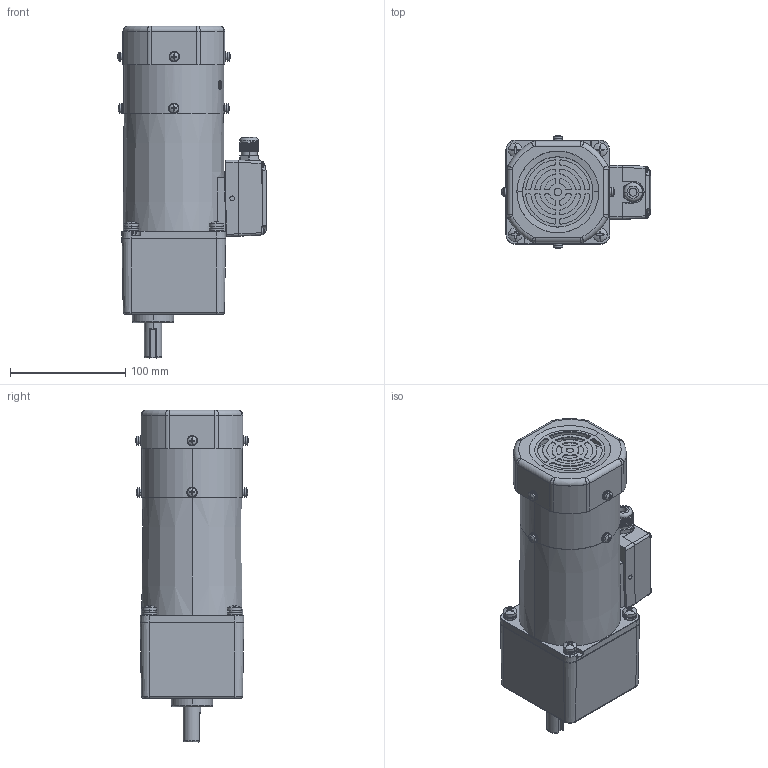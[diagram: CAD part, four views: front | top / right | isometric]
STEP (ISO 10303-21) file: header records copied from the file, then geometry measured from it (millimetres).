
FILE_DESCRIPTION (( 'STEP AP203' ), '1' );
FILE_NAME ('5RK120GU-CMFT(5GU3KB-200KB).STEP', '2023-08-09T02:54:25', ( 'Windows User' ), ( 'P R C' ), 'SwSTEP 2.0', 'SolidWorks 2019', '' );
FILE_SCHEMA (( 'CONFIG_CONTROL_DESIGN' ));
Length unit declared in the file: millimetre
Products named in the file (13): ^__5RK120GU-CMFT(5GU3KB-200KB)(2)_5RK120GU-CMFT(5GU3KB-200KB); 葩璃 (2) ^__5RK120GU-CMFT(5GU3KB-200KB)(2)_5RK120GU-CMFT(5GU3KB-200KB); ^5RK120GU-CMFT(5GU3KB-200KB)(2)_5RK120GU-CMFT(5GU3KB-200KB); 5RK120GU-CMFT(5GU3KB-200KB); ^_5RK120GU-CMFT(5GU3KB-200KB)(2)_5RK120GU-CMFT(5GU3KB-200KB); 葩璃 (3) ^__5RK120GU-CMFT(5GU3KB-200KB)(2)_5RK120GU-CMFT(5GU3KB-200KB); ^____5RK120GU-CMFT(5GU3KB-200KB)(2)_5RK120GU-CMFT(5GU3KB-200KB); 葩璃 (3) ^____5RK120GU-CMFT(5GU3KB-200KB)(2)_5RK120GU-CMFT(5GU3KB-200KB); 葩璃 (2) ^____5RK120GU-CMFT(5GU3KB-200KB)(2)_5RK120GU-CMFT(5GU3KB-200KB); 5RK120GU-CMFT(5GU3KB-200KB)(2)^5RK120GU-CMFT(5GU3KB-200KB); ^___5RK120GU-CMFT(5GU3KB-200KB)(2)_5RK120GU-CMFT(5GU3KB-200KB); 5GU3KB-200KB^5RK120GU-CMFT(5GU3KB-200KB)(2)_5RK120GU-CMFT(5GU3KB-200KB)
Assembly tree (15 placements, depth 7):
  5RK120GU-CMFT(5GU3KB-200KB)
    5RK120GU-CMFT(5GU3KB-200KB)(2)^5RK120GU-CMFT(5GU3KB-200KB)
      ^5RK120GU-CMFT(5GU3KB-200KB)(2)_5RK120GU-CMFT(5GU3KB-200KB)
        ^_5RK120GU-CMFT(5GU3KB-200KB)(2)_5RK120GU-CMFT(5GU3KB-200KB)
          ^__5RK120GU-CMFT(5GU3KB-200KB)(2)_5RK120GU-CMFT(5GU3KB-200KB)
            ^___5RK120GU-CMFT(5GU3KB-200KB)(2)_5RK120GU-CMFT(5GU3KB-200KB)
              ^____5RK120GU-CMFT(5GU3KB-200KB)(2)_5RK120GU-CMFT(5GU3KB-200KB)
              葩璃 (2) ^____5RK120GU-CMFT(5GU3KB-200KB)(2)_5RK120GU-CMFT(5GU3KB-200KB)
              葩璃 (3) ^____5RK120GU-CMFT(5GU3KB-200KB)(2)_5RK120GU-CMFT(5GU3KB-200KB)  x4
          ^__5RK120GU-CMFT(5GU3KB-200KB)(2)_5RK120GU-CMFT(5GU3KB-200KB)
          葩璃 (2) ^__5RK120GU-CMFT(5GU3KB-200KB)(2)_5RK120GU-CMFT(5GU3KB-200KB)
          葩璃 (3) ^__5RK120GU-CMFT(5GU3KB-200KB)(2)_5RK120GU-CMFT(5GU3KB-200KB)
      5GU3KB-200KB^5RK120GU-CMFT(5GU3KB-200KB)(2)_5RK120GU-CMFT(5GU3KB-200KB)
Bounding box: 129.3 x 98.11 x 288 mm (x, y, z)
Volume: 1371034 mm3; surface area: 202684.8 mm2
Topology: 49 solids, 49 shells, 1955 faces, 5063 edges, 3216 vertices
Faces by surface type: cylinder 783, plane 572, cone 379, torus 104, sphere 81, bspline 36
Entity records: 55947 total; most frequent: CARTESIAN_POINT 15590, DIRECTION 8591, ORIENTED_EDGE 8042, EDGE_CURVE 4021, AXIS2_PLACEMENT_3D 3509, VERTEX_POINT 2599, CIRCLE 1955, EDGE_LOOP 1706
